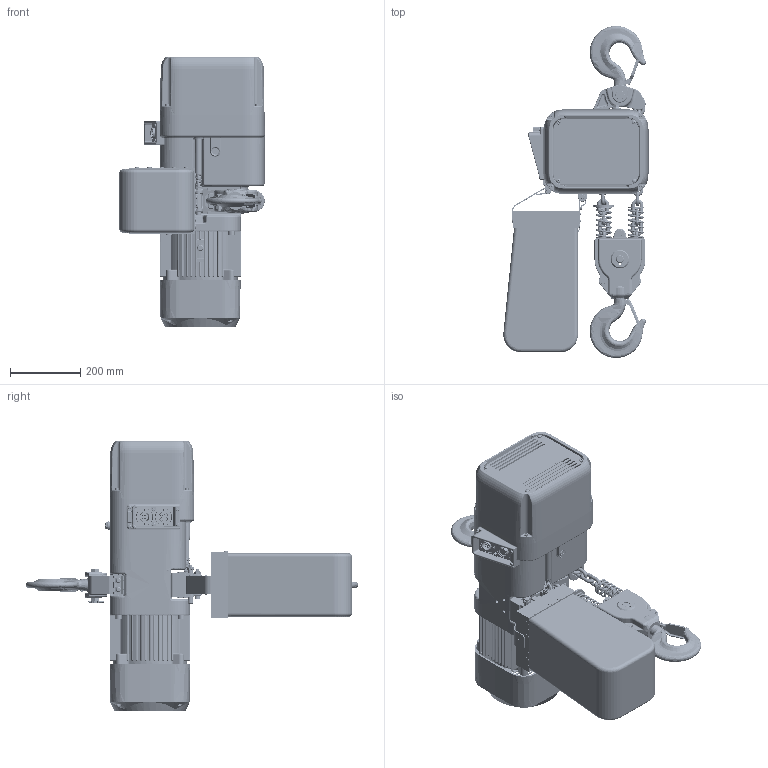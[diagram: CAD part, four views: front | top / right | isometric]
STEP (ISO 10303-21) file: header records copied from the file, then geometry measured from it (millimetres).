
FILE_DESCRIPTION (( 'STEP AP214' ), '1' );
FILE_NAME ('NER2030CD.STEP', '2026-08-04T12:51:46', ( '' ), ( '' ), 'SwSTEP 2.0', 'SolidWorks 2026', '' );
FILE_SCHEMA (( 'AUTOMOTIVE_DESIGN' ));
Length unit declared in the file: millimetre
Products named in the file (66): LCER2020NP_14 LINKS; J1NA001-20100_B18.2.4.1M - Hex nut, Style 1,  M10 x 1.5, with 16mm WAF --D-C; socket head cap screw_am_9091274; ER2ES9103; ES088020L; 90912116_90912116; 90912104_ 90912104; ER2ER9030; ER2ES9101; ER2ES5403; ER2ER9011; single coil rectangular section spring washer_bsi_9012711; ER2EI4511; ER2EI2523; ER2ES9186; ER1ES9032; ER2CS9357; NER2030CD; ER2CS9511; E3S112003; ER2ES9123; LCER2020NP; external tooth lock washer_am_B18.21.2M-External Tooth Lock Washers_AM6; ER2ES9121; ER2ES9337; ER2BHM30R9A6; ER2ER9001; ER2EI2104; ER2ER1011; pan cross head_am_B18.6.7M - M6 x 1.0 x 16 Type I Cross Recessed PHMS --16N; ES558003; ER2ER1002; LCER2020NP_8 LINKS; BK2E1_for (N)ER2020L; ER1ES1041; 9091255_9091255; ER1ES9054; ER2ES9107_ER2ES9107; ER2ER9015; 9091254_9091254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
Assembly tree (132 placements, depth 4):
  NER2030CD
    ER2ES9103
    ER2ES9101
    ER2ES9105
    ER2ES9107_ER2ES9107
    9091255_9091255  x4
    90912116_90912116  x4
    E3S112003
    E3S111003
    ER2ES9331
    single coil rectangular section spring washer_bsi_9012711  x4
    socket head cap screw_am_9091274  x4
    ER2ES9337
    ER2ES9338
    ER2CS9357
    ENDS2E2
      90912107_B18.3.1M - 10 x 1.5 x 100 Hex SHCS -- 100CHX
      ES066075
    ES127005S
    ER1BS9135
    ER2ES9121  x2
    ER2ES9123
    socket head cap screw_am_B18.3.1M - 6 x 1.0 x 12 Hex SHCS -- 12CHX
    ER2ES9186
    ER2ER9030
    ER1ES9032
    ER2ER1001
      ER2ER9001
      ER2ER1002
    ER2ER1011
      ER2ER9011
      ER2ER1002
      ER2ER2015
        ER2ER9015  x2
        J1BA1-1004026_B18.2.3.1M - Hex cap screw, M10 x 1.5 x 40 --40C  x3
        J1WS011-20100_Rectangular section spring washer BS 4464 - 16 (Type B)  x3
        J1NA001-20100_B18.2.4.1M - Hex nut, Style 1,  M10 x 1.5, with 16mm WAF --D-C  x3
    ES047015  x2
    ER1ES9054
    LCER2020NP_14 LINKS
      LCER2020NP  x14
    ES041030
    9009416_9009416
    LCER2020NP_8 LINKS
      LCER2020NP  x8
    ER1ES1041
    ER2BHM20I9A5
    ER2BHM30R9A6
    ES088020L
    split pin (metric) as_AS 1236 PSM - 4 x 32
    ER2EI4511
      ER2CS9511
      MS561010  x6
      ER2EI2523
      ER2EI2564
      ES558003  x8
    ER2EI2104
      ER2EI9104_ER2EI9104
      ER2EI9185_ER2EI9185
      J1AP24001212  x4
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Bounding box: 413.92 x 944.86 x 768.07 mm (x, y, z)
Volume: 37938573.1 mm3; surface area: 3150338 mm2
Topology: 140 solids, 141 shells, 7252 faces, 18357 edges, 11214 vertices
Faces by surface type: cylinder 2775, plane 2413, torus 713, bspline 631, cone 458, sphere 262
Entity records: 235899 total; most frequent: CARTESIAN_POINT 96768, DIRECTION 28124, ORIENTED_EDGE 27972, EDGE_CURVE 13986, AXIS2_PLACEMENT_3D 10921, VERTEX_POINT 8729, LINE 6282, VECTOR 6282
